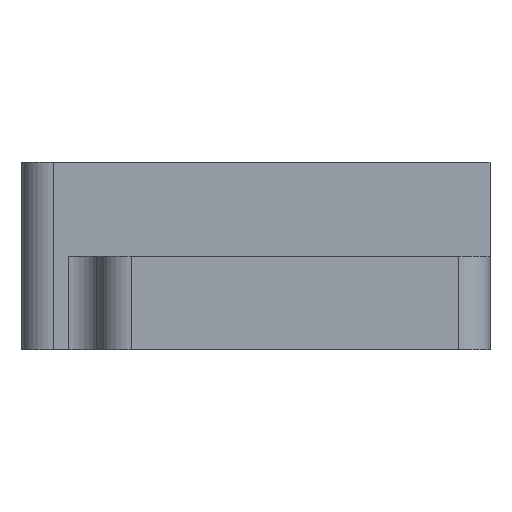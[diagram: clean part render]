
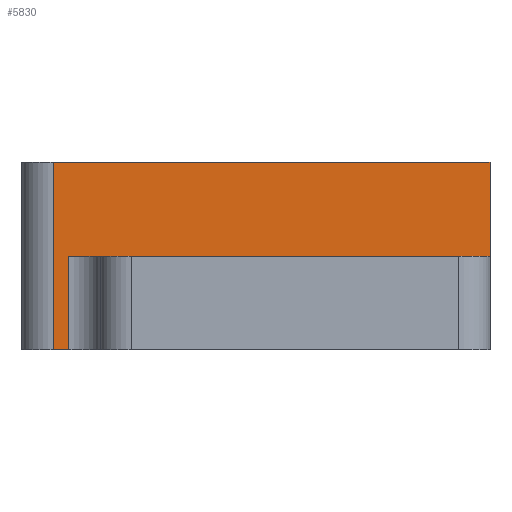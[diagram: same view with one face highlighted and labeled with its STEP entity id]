
A CAD part, front view. The second image highlights one B-rep face of the part: STEP entity #5830.
In plain terms, the highlighted planar face has unit normal (0, -1, 0).
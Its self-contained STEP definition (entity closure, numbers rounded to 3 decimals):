
#80 = CARTESIAN_POINT ( 'NONE',  ( 12.5, -12.5, 6. ) ) ;
#208 = LINE ( 'NONE', #6185, #6869 ) ;
#623 = DIRECTION ( 'NONE',  ( 0., -1., 0. ) ) ;
#661 = ORIENTED_EDGE ( 'NONE', *, *, #3956, .T. ) ;
#746 = VECTOR ( 'NONE', #1624, 1000. ) ;
#877 = EDGE_CURVE ( 'NONE', #2618, #6403, #928, .T. ) ;
#928 = LINE ( 'NONE', #6793, #1687 ) ;
#968 = EDGE_CURVE ( 'NONE', #6377, #4461, #1981, .T. ) ;
#1479 = EDGE_LOOP ( 'NONE', ( #5647, #6443, #2499, #3657, #2510, #661 ) ) ;
#1624 = DIRECTION ( 'NONE',  ( 1., 0., 0. ) ) ;
#1687 = VECTOR ( 'NONE', #3821, 1000. ) ;
#1744 = EDGE_CURVE ( 'NONE', #3369, #6377, #5323, .T. ) ;
#1939 = EDGE_CURVE ( 'NONE', #7023, #6403, #208, .T. ) ;
#1981 = LINE ( 'NONE', #7216, #5800 ) ;
#2414 = DIRECTION ( 'NONE',  ( 0., 0., 1. ) ) ;
#2431 = VECTOR ( 'NONE', #5330, 1000. ) ;
#2499 = ORIENTED_EDGE ( 'NONE', *, *, #4840, .F. ) ;
#2510 = ORIENTED_EDGE ( 'NONE', *, *, #877, .F. ) ;
#2618 = VERTEX_POINT ( 'NONE', #6985 ) ;
#3208 = CARTESIAN_POINT ( 'NONE',  ( 12.5, -12.5, 12. ) ) ;
#3369 = VERTEX_POINT ( 'NONE', #3924 ) ;
#3585 = PLANE ( 'NONE',  #4713 ) ;
#3657 = ORIENTED_EDGE ( 'NONE', *, *, #1939, .T. ) ;
#3821 = DIRECTION ( 'NONE',  ( 1., 0., 0. ) ) ;
#3924 = CARTESIAN_POINT ( 'NONE',  ( -15.5, -12.5, 0. ) ) ;
#3956 = EDGE_CURVE ( 'NONE', #2618, #3369, #6384, .T. ) ;
#3971 = VECTOR ( 'NONE', #7007, 1000. ) ;
#4461 = VERTEX_POINT ( 'NONE', #7252 ) ;
#4633 = CARTESIAN_POINT ( 'NONE',  ( -12.5, -12.5, 6. ) ) ;
#4709 = LINE ( 'NONE', #4633, #2431 ) ;
#4713 = AXIS2_PLACEMENT_3D ( 'NONE', #5971, #623, #6676 ) ;
#4840 = EDGE_CURVE ( 'NONE', #7023, #4461, #4709, .T. ) ;
#5323 = LINE ( 'NONE', #5876, #746 ) ;
#5330 = DIRECTION ( 'NONE',  ( -1., 0., 0. ) ) ;
#5647 = ORIENTED_EDGE ( 'NONE', *, *, #1744, .T. ) ;
#5796 = CARTESIAN_POINT ( 'NONE',  ( -15.5, -12.5, 0. ) ) ;
#5800 = VECTOR ( 'NONE', #2414, 1000. ) ;
#5830 = ADVANCED_FACE ( 'NONE', ( #6561 ), #3585, .T. ) ;
#5876 = CARTESIAN_POINT ( 'NONE',  ( -17.5, -12.5, 0. ) ) ;
#5971 = CARTESIAN_POINT ( 'NONE',  ( -17.5, -12.5, 0. ) ) ;
#6148 = DIRECTION ( 'NONE',  ( 0., 0., 1. ) ) ;
#6185 = CARTESIAN_POINT ( 'NONE',  ( 12.5, -12.5, 0. ) ) ;
#6377 = VERTEX_POINT ( 'NONE', #7433 ) ;
#6384 = LINE ( 'NONE', #5796, #3971 ) ;
#6403 = VERTEX_POINT ( 'NONE', #3208 ) ;
#6443 = ORIENTED_EDGE ( 'NONE', *, *, #968, .T. ) ;
#6561 = FACE_OUTER_BOUND ( 'NONE', #1479, .T. ) ;
#6676 = DIRECTION ( 'NONE',  ( 0., 0., -1. ) ) ;
#6793 = CARTESIAN_POINT ( 'NONE',  ( -17.5, -12.5, 12. ) ) ;
#6869 = VECTOR ( 'NONE', #6148, 1000. ) ;
#6985 = CARTESIAN_POINT ( 'NONE',  ( -15.5, -12.5, 12. ) ) ;
#7007 = DIRECTION ( 'NONE',  ( 0., 0., -1. ) ) ;
#7023 = VERTEX_POINT ( 'NONE', #80 ) ;
#7216 = CARTESIAN_POINT ( 'NONE',  ( -14.5, -12.5, 0. ) ) ;
#7252 = CARTESIAN_POINT ( 'NONE',  ( -14.5, -12.5, 6. ) ) ;
#7433 = CARTESIAN_POINT ( 'NONE',  ( -14.5, -12.5, 0. ) ) ;
